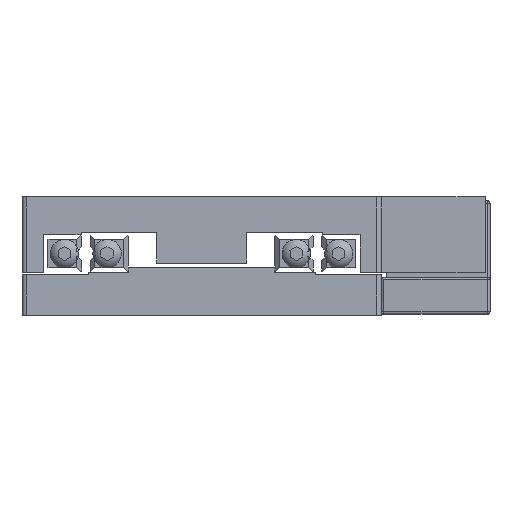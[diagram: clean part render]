
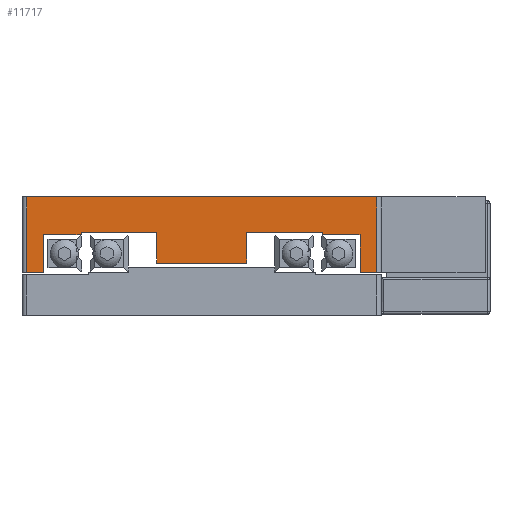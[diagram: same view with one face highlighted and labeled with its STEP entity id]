
A CAD part, left-side view. The second image highlights one B-rep face of the part: STEP entity #11717.
In plain terms, the highlighted planar face has unit normal (-1, 0, 0).
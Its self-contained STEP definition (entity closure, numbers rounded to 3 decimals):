
#1428 = CARTESIAN_POINT ( 'NONE',  ( -118.892, -18.442, 12.959 ) ) ;
#1437 = DIRECTION ( 'NONE',  ( 0., -1., 0. ) ) ;
#1473 = CARTESIAN_POINT ( 'NONE',  ( -118.892, -18.442, 12.959 ) ) ;
#1479 = CARTESIAN_POINT ( 'NONE',  ( -118.892, 7.058, 12.459 ) ) ;
#1480 = DIRECTION ( 'NONE',  ( 0., 0., 1. ) ) ;
#1485 = CARTESIAN_POINT ( 'NONE',  ( -118.892, -18.442, 12.459 ) ) ;
#1486 = DIRECTION ( 'NONE',  ( 0., -1., 0. ) ) ;
#1493 = CARTESIAN_POINT ( 'NONE',  ( -118.892, -18.442, 4.459 ) ) ;
#1497 = DIRECTION ( 'NONE',  ( 0., -1., 0. ) ) ;
#1499 = CARTESIAN_POINT ( 'NONE',  ( -118.892, -18.442, 4.459 ) ) ;
#1504 = DIRECTION ( 'NONE',  ( 0., -1., 0. ) ) ;
#1513 = DIRECTION ( 'NONE',  ( 0., -1., 0. ) ) ;
#1536 = CARTESIAN_POINT ( 'NONE',  ( -118.892, -18.442, 6.459 ) ) ;
#1545 = CARTESIAN_POINT ( 'NONE',  ( -118.892, -27.942, 12.459 ) ) ;
#1546 = DIRECTION ( 'NONE',  ( 0., 0., 1. ) ) ;
#1551 = DIRECTION ( 'NONE',  ( 0., -1., 0. ) ) ;
#1568 = CARTESIAN_POINT ( 'NONE',  ( -118.892, -43.942, 12.459 ) ) ;
#1572 = DIRECTION ( 'NONE',  ( 0., 0., -1. ) ) ;
#2171 = CARTESIAN_POINT ( 'NONE',  ( -118.892, -51.942, 12.459 ) ) ;
#2174 = DIRECTION ( 'NONE',  ( 0., 0., -1. ) ) ;
#2401 = CARTESIAN_POINT ( 'NONE',  ( -118.892, -18.442, 12.459 ) ) ;
#2402 = PLANE ( 'NONE',  #4181 ) ;
#2405 = DIRECTION ( 'NONE',  ( -1., 0., 0. ) ) ;
#2406 = DIRECTION ( 'NONE',  ( 0., 0., 1. ) ) ;
#4181 = AXIS2_PLACEMENT_3D ( 'NONE', #2401, #2405, #2406 ) ;
#5768 = EDGE_LOOP ( 'NONE', ( #11494, #11493, #11491, #11489, #11487, #11485, #11484, #11482, #11480, #11478, #11477, #11475, #11473, #11471, #11469, #11466 ) ) ;
#6967 = DIRECTION ( 'NONE',  ( 0., 0., -1. ) ) ;
#6976 = CARTESIAN_POINT ( 'NONE',  ( -118.892, -8.942, 12.459 ) ) ;
#7221 = CARTESIAN_POINT ( 'NONE',  ( -118.892, 15.058, 12.459 ) ) ;
#8732 = VECTOR ( 'NONE', #2174, 1000. ) ;
#8735 = LINE ( 'NONE', #2171, #8732 ) ;
#8912 = VECTOR ( 'NONE', #1572, 1000. ) ;
#8916 = LINE ( 'NONE', #1568, #8912 ) ;
#8924 = VECTOR ( 'NONE', #1551, 1000. ) ;
#8930 = VECTOR ( 'NONE', #1546, 1000. ) ;
#8932 = LINE ( 'NONE', #1545, #8930 ) ;
#8936 = LINE ( 'NONE', #1536, #8924 ) ;
#8948 = VECTOR ( 'NONE', #1513, 1000. ) ;
#8950 = LINE ( 'NONE', #1499, #8948 ) ;
#8956 = VECTOR ( 'NONE', #1504, 1000. ) ;
#8962 = LINE ( 'NONE', #1493, #8956 ) ;
#8963 = VECTOR ( 'NONE', #1497, 1000. ) ;
#8965 = LINE ( 'NONE', #1473, #8963 ) ;
#8973 = VECTOR ( 'NONE', #1486, 1000. ) ;
#8976 = LINE ( 'NONE', #1485, #8973 ) ;
#8979 = VECTOR ( 'NONE', #1480, 1000. ) ;
#8982 = LINE ( 'NONE', #1479, #8979 ) ;
#8994 = VECTOR ( 'NONE', #1437, 1000. ) ;
#8996 = LINE ( 'NONE', #1428, #8994 ) ;
#11466 = ORIENTED_EDGE ( 'NONE', *, *, #13901, .T. ) ;
#11469 = ORIENTED_EDGE ( 'NONE', *, *, #17479, .T. ) ;
#11471 = ORIENTED_EDGE ( 'NONE', *, *, #17623, .T. ) ;
#11473 = ORIENTED_EDGE ( 'NONE', *, *, #17470, .T. ) ;
#11475 = ORIENTED_EDGE ( 'NONE', *, *, #17507, .T. ) ;
#11477 = ORIENTED_EDGE ( 'NONE', *, *, #17456, .T. ) ;
#11478 = ORIENTED_EDGE ( 'NONE', *, *, #17496, .T. ) ;
#11480 = ORIENTED_EDGE ( 'NONE', *, *, #17499, .T. ) ;
#11482 = ORIENTED_EDGE ( 'NONE', *, *, #13795, .T. ) ;
#11484 = ORIENTED_EDGE ( 'NONE', *, *, #17475, .T. ) ;
#11485 = ORIENTED_EDGE ( 'NONE', *, *, #17467, .T. ) ;
#11487 = ORIENTED_EDGE ( 'NONE', *, *, #13939, .T. ) ;
#11489 = ORIENTED_EDGE ( 'NONE', *, *, #13900, .T. ) ;
#11491 = ORIENTED_EDGE ( 'NONE', *, *, #17483, .T. ) ;
#11493 = ORIENTED_EDGE ( 'NONE', *, *, #13936, .T. ) ;
#11494 = ORIENTED_EDGE ( 'NONE', *, *, #13921, .F. ) ;
#11717 = ADVANCED_FACE ( 'NONE', ( #18602 ), #2402, .T. ) ;
#12679 = CARTESIAN_POINT ( 'NONE',  ( -118.892, -55.442, 20.459 ) ) ;
#12687 = DIRECTION ( 'NONE',  ( 0., 0., 1. ) ) ;
#12689 = DIRECTION ( 'NONE',  ( 0., 0., 1. ) ) ;
#12754 = CARTESIAN_POINT ( 'NONE',  ( -118.892, -18.442, 20.459 ) ) ;
#12755 = DIRECTION ( 'NONE',  ( 0., -1., 0. ) ) ;
#12782 = DIRECTION ( 'NONE',  ( 0., -1., 0. ) ) ;
#12791 = CARTESIAN_POINT ( 'NONE',  ( -118.892, 18.558, 12.459 ) ) ;
#12792 = DIRECTION ( 'NONE',  ( 0., 0., -1. ) ) ;
#12798 = CARTESIAN_POINT ( 'NONE',  ( -118.892, -18.442, 12.459 ) ) ;
#13385 = CARTESIAN_POINT ( 'NONE',  ( -118.892, -51.942, 4.459 ) ) ;
#13389 = CARTESIAN_POINT ( 'NONE',  ( -118.892, -55.442, 4.459 ) ) ;
#13390 = CARTESIAN_POINT ( 'NONE',  ( -118.892, -55.442, 20.459 ) ) ;
#13399 = CARTESIAN_POINT ( 'NONE',  ( -118.892, -51.942, 12.459 ) ) ;
#13400 = CARTESIAN_POINT ( 'NONE',  ( -118.892, -43.942, 12.959 ) ) ;
#13404 = CARTESIAN_POINT ( 'NONE',  ( -118.892, -27.942, 12.959 ) ) ;
#13405 = CARTESIAN_POINT ( 'NONE',  ( -118.892, -43.942, 12.459 ) ) ;
#13408 = CARTESIAN_POINT ( 'NONE',  ( -118.892, -27.942, 6.459 ) ) ;
#13409 = CARTESIAN_POINT ( 'NONE',  ( -118.892, -8.942, 6.459 ) ) ;
#13413 = CARTESIAN_POINT ( 'NONE',  ( -118.892, -8.942, 12.959 ) ) ;
#13415 = CARTESIAN_POINT ( 'NONE',  ( -118.892, 7.058, 12.459 ) ) ;
#13428 = CARTESIAN_POINT ( 'NONE',  ( -118.892, 7.058, 12.959 ) ) ;
#13431 = CARTESIAN_POINT ( 'NONE',  ( -118.892, 15.058, 4.459 ) ) ;
#13455 = CARTESIAN_POINT ( 'NONE',  ( -118.892, 15.058, 12.459 ) ) ;
#13460 = CARTESIAN_POINT ( 'NONE',  ( -118.892, 18.558, 4.459 ) ) ;
#13464 = CARTESIAN_POINT ( 'NONE',  ( -118.892, 18.558, 20.459 ) ) ;
#13795 = EDGE_CURVE ( 'NONE', #15432, #15428, #18113, .T. ) ;
#13900 = EDGE_CURVE ( 'NONE', #15450, #15474, #17943, .T. ) ;
#13901 = EDGE_CURVE ( 'NONE', #15408, #15409, #17944, .T. ) ;
#13921 = EDGE_CURVE ( 'NONE', #15483, #15409, #17913, .T. ) ;
#13936 = EDGE_CURVE ( 'NONE', #15483, #15479, #17888, .T. ) ;
#13939 = EDGE_CURVE ( 'NONE', #15474, #15434, #17917, .T. ) ;
#15404 = VERTEX_POINT ( 'NONE', #13385 ) ;
#15408 = VERTEX_POINT ( 'NONE', #13389 ) ;
#15409 = VERTEX_POINT ( 'NONE', #13390 ) ;
#15418 = VERTEX_POINT ( 'NONE', #13399 ) ;
#15419 = VERTEX_POINT ( 'NONE', #13400 ) ;
#15423 = VERTEX_POINT ( 'NONE', #13404 ) ;
#15424 = VERTEX_POINT ( 'NONE', #13405 ) ;
#15427 = VERTEX_POINT ( 'NONE', #13408 ) ;
#15428 = VERTEX_POINT ( 'NONE', #13409 ) ;
#15432 = VERTEX_POINT ( 'NONE', #13413 ) ;
#15434 = VERTEX_POINT ( 'NONE', #13415 ) ;
#15447 = VERTEX_POINT ( 'NONE', #13428 ) ;
#15450 = VERTEX_POINT ( 'NONE', #13431 ) ;
#15474 = VERTEX_POINT ( 'NONE', #13455 ) ;
#15479 = VERTEX_POINT ( 'NONE', #13460 ) ;
#15483 = VERTEX_POINT ( 'NONE', #13464 ) ;
#17456 = EDGE_CURVE ( 'NONE', #15423, #15419, #8996, .T. ) ;
#17467 = EDGE_CURVE ( 'NONE', #15434, #15447, #8982, .T. ) ;
#17470 = EDGE_CURVE ( 'NONE', #15424, #15418, #8976, .T. ) ;
#17475 = EDGE_CURVE ( 'NONE', #15447, #15432, #8965, .T. ) ;
#17479 = EDGE_CURVE ( 'NONE', #15404, #15408, #8962, .T. ) ;
#17483 = EDGE_CURVE ( 'NONE', #15479, #15450, #8950, .T. ) ;
#17496 = EDGE_CURVE ( 'NONE', #15427, #15423, #8932, .T. ) ;
#17499 = EDGE_CURVE ( 'NONE', #15428, #15427, #8936, .T. ) ;
#17507 = EDGE_CURVE ( 'NONE', #15419, #15424, #8916, .T. ) ;
#17623 = EDGE_CURVE ( 'NONE', #15418, #15404, #8735, .T. ) ;
#17882 = VECTOR ( 'NONE', #12782, 1000. ) ;
#17885 = VECTOR ( 'NONE', #12792, 1000. ) ;
#17888 = LINE ( 'NONE', #12791, #17885 ) ;
#17908 = VECTOR ( 'NONE', #12755, 1000. ) ;
#17913 = LINE ( 'NONE', #12754, #17908 ) ;
#17917 = LINE ( 'NONE', #12798, #17882 ) ;
#17939 = VECTOR ( 'NONE', #12687, 1000. ) ;
#17940 = VECTOR ( 'NONE', #12689, 1000. ) ;
#17943 = LINE ( 'NONE', #7221, #17939 ) ;
#17944 = LINE ( 'NONE', #12679, #17940 ) ;
#18106 = VECTOR ( 'NONE', #6967, 1000. ) ;
#18113 = LINE ( 'NONE', #6976, #18106 ) ;
#18602 = FACE_OUTER_BOUND ( 'NONE', #5768, .T. ) ;
